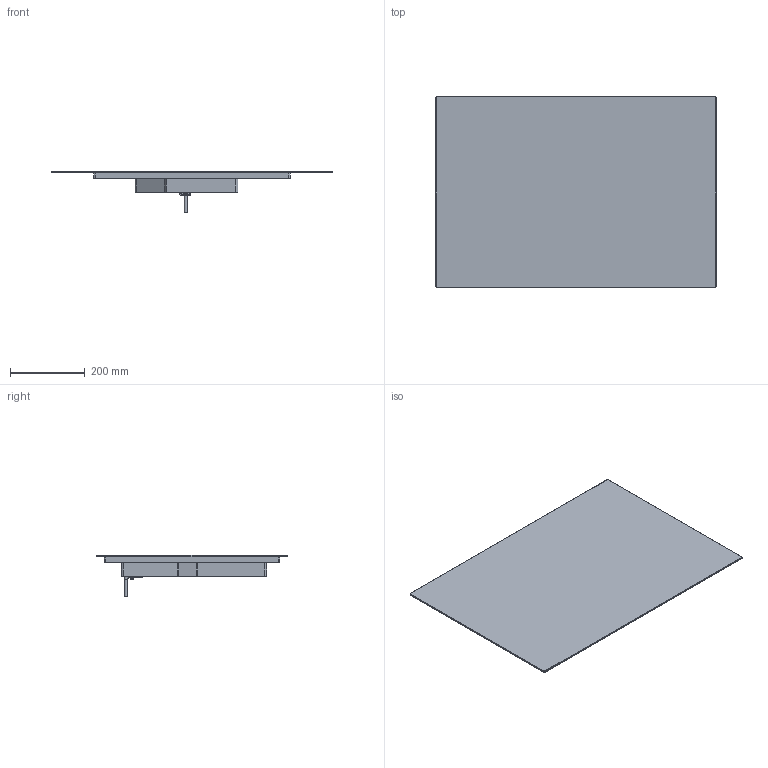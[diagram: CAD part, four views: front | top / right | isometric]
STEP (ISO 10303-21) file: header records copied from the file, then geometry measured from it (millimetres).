
FILE_DESCRIPTION(/* description */ (''),/* implementation_level */ '2;1');
FILE_NAME(/* name */ 'SI1B22741D_1.stp',/* time_stamp */ '2026-07-17T13:03:43+02:00',/* author */ (''),/* organization */ (''),/* preprocessor_version */ 'ST-DEVELOPER v20',/* originating_system */ 'SIEMENS PLM Software NX2412.4001',/* authorisation */ '');
FILE_SCHEMA (('AUTOMOTIVE_DESIGN { 1 0 10303 214 3 1 1 1 }'));
Length unit declared in the file: millimetre
Products named in the file (1): SI1B22741D_objects
Bounding box: 750 x 510 x 110.7 mm (x, y, z)
Volume: 8580975.6 mm3; surface area: 1534240.8 mm2
Topology: 5 solids, 5 shells, 500 faces, 1367 edges, 906 vertices
Faces by surface type: plane 395, cylinder 87, cone 9, torus 9
Full cylindrical faces by diameter (mm): 8 x2, 73.977 x1
Entity records: 15664 total; most frequent: CARTESIAN_POINT 3049, ORIENTED_EDGE 2716, DIRECTION 2412, EDGE_CURVE 1358, LINE 1132, VECTOR 1132, VERTEX_POINT 898, AXIS2_PLACEMENT_3D 640
